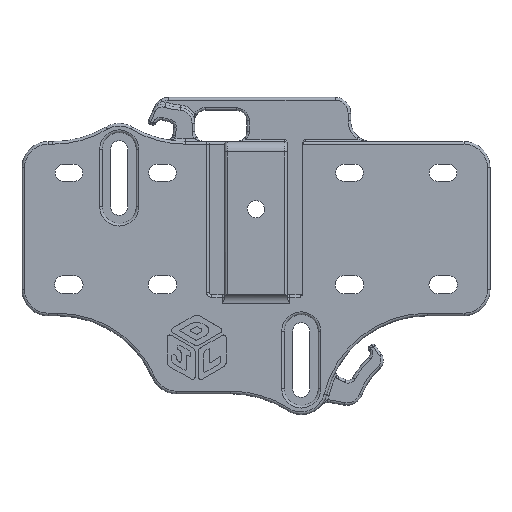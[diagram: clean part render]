
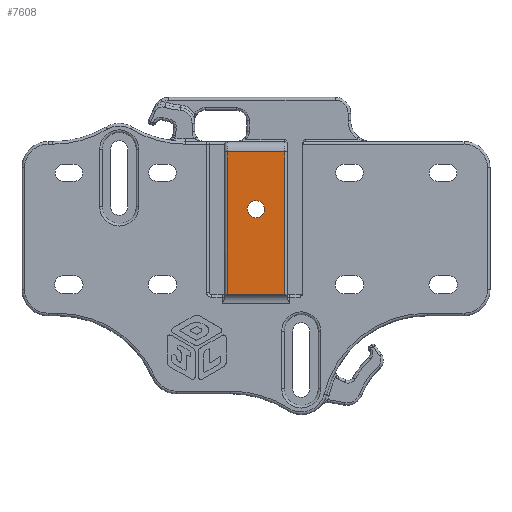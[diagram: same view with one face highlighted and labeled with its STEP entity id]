
A CAD part, top view. The second image highlights one B-rep face of the part: STEP entity #7608.
In plain terms, the highlighted planar face has unit normal (0, 0, 1).
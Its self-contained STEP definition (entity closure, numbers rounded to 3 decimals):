
#543=CIRCLE('',#8376,1.65);
#583=FACE_BOUND('',#1490,.T.);
#1020=FACE_OUTER_BOUND('',#1489,.T.);
#1489=EDGE_LOOP('',(#6493,#6494,#6495,#6496));
#1490=EDGE_LOOP('',(#6497));
#2145=LINE('',#13863,#2856);
#2146=LINE('',#13875,#2857);
#2147=LINE('',#13878,#2858);
#2148=LINE('',#13890,#2859);
#2856=VECTOR('',#10361,1.);
#2857=VECTOR('',#10364,1.);
#2858=VECTOR('',#10367,1.);
#2859=VECTOR('',#10370,1.);
#3302=VERTEX_POINT('',#11507);
#3584=VERTEX_POINT('',#13822);
#3587=VERTEX_POINT('',#13862);
#3588=VERTEX_POINT('',#13877);
#3589=VERTEX_POINT('',#13892);
#4615=EDGE_CURVE('',#3584,#3587,#2145,.F.);
#4617=EDGE_CURVE('',#3302,#3584,#2146,.F.);
#4618=EDGE_CURVE('',#3588,#3302,#2147,.T.);
#4620=EDGE_CURVE('',#3587,#3588,#2148,.T.);
#4621=EDGE_CURVE('',#3589,#3589,#543,.T.);
#6493=ORIENTED_EDGE('',*,*,#4620,.T.);
#6494=ORIENTED_EDGE('',*,*,#4618,.T.);
#6495=ORIENTED_EDGE('',*,*,#4617,.T.);
#6496=ORIENTED_EDGE('',*,*,#4615,.T.);
#6497=ORIENTED_EDGE('',*,*,#4621,.F.);
#7190=PLANE('',#8377);
#7608=ADVANCED_FACE('',(#1020,#583),#7190,.T.);
#8376=AXIS2_PLACEMENT_3D('',#13893,#10373,#10374);
#8377=AXIS2_PLACEMENT_3D('',#13895,#10376,#10377);
#10361=DIRECTION('',(0.,1.,0.));
#10364=DIRECTION('',(1.,0.,0.));
#10367=DIRECTION('',(0.,1.,0.));
#10370=DIRECTION('',(1.,0.,0.));
#10373=DIRECTION('center_axis',(0.,0.,1.));
#10374=DIRECTION('ref_axis',(-1.,0.,0.));
#10376=DIRECTION('center_axis',(0.,0.,1.));
#10377=DIRECTION('ref_axis',(1.,0.,0.));
#11507=CARTESIAN_POINT('',(14.3,22.5,7.));
#13822=CARTESIAN_POINT('',(3.3,22.5,7.));
#13862=CARTESIAN_POINT('',(3.3,-5.,7.));
#13863=CARTESIAN_POINT('',(3.3,7.511,7.));
#13875=CARTESIAN_POINT('',(5.029,22.5,7.));
#13877=CARTESIAN_POINT('',(14.3,-5.,7.));
#13878=CARTESIAN_POINT('',(14.3,7.461,7.));
#13890=CARTESIAN_POINT('',(8.8,-5.,7.));
#13892=CARTESIAN_POINT('',(8.009,10.052,7.));
#13893=CARTESIAN_POINT('Origin',(8.8,11.5,7.));
#13895=CARTESIAN_POINT('Origin',(0.,0.,7.));
